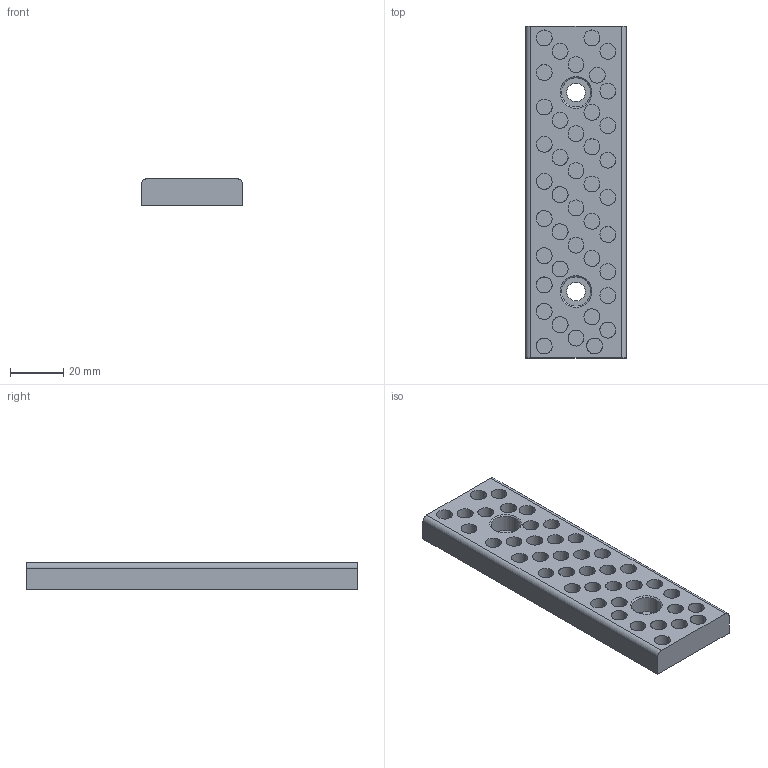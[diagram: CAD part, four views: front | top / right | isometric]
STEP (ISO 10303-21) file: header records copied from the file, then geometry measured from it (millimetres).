
FILE_DESCRIPTION (( 'STEP AP214' ), '1' );
FILE_NAME ('SW220-01-38X125.STEP', '2020-10-14T07:08:13', ( 'August' ), ( '' ), 'SwSTEP 2.0', 'SolidWorks 2018', '' );
FILE_SCHEMA (( 'AUTOMOTIVE_DESIGN' ));
Length unit declared in the file: millimetre
Products named in the file (1): SW220-01-38X125
Bounding box: 38 x 125 x 10 mm (x, y, z)
Volume: 37832.4 mm3; surface area: 18239.4 mm2
Topology: 1 solids, 1 shells, 145 faces, 296 edges, 196 vertices
Faces by surface type: cylinder 92, plane 49, cone 4
Entity records: 5494 total; most frequent: CARTESIAN_POINT 2514, ORIENTED_EDGE 592, DIRECTION 556, EDGE_CURVE 296, AXIS2_PLACEMENT_3D 224, VERTEX_POINT 196, EDGE_LOOP 192, ADVANCED_FACE 145
